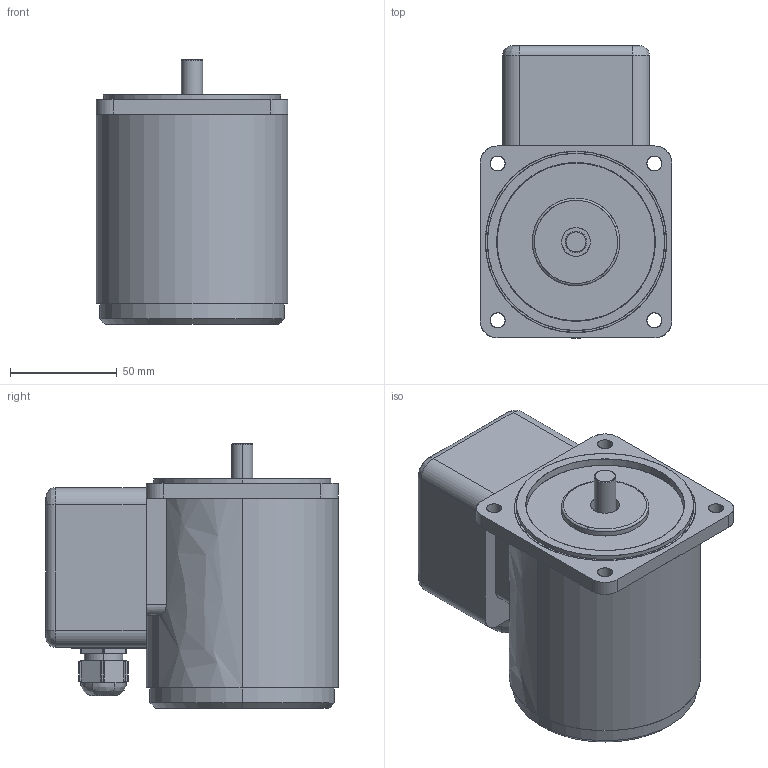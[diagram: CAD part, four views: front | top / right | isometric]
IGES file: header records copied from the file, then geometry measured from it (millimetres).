
Start section: SolidWorks IGES file using analytic representation for surfaces
Bounding box: 90 x 137 x 124 mm (x, y, z)
Surface area: 115788.5 mm2 (no closed solid volume)
Topology: 0 solids, 0 shells, 201 faces, 3532 edges, 3532 vertices
Faces by surface type: bspline 113, revolution 88
